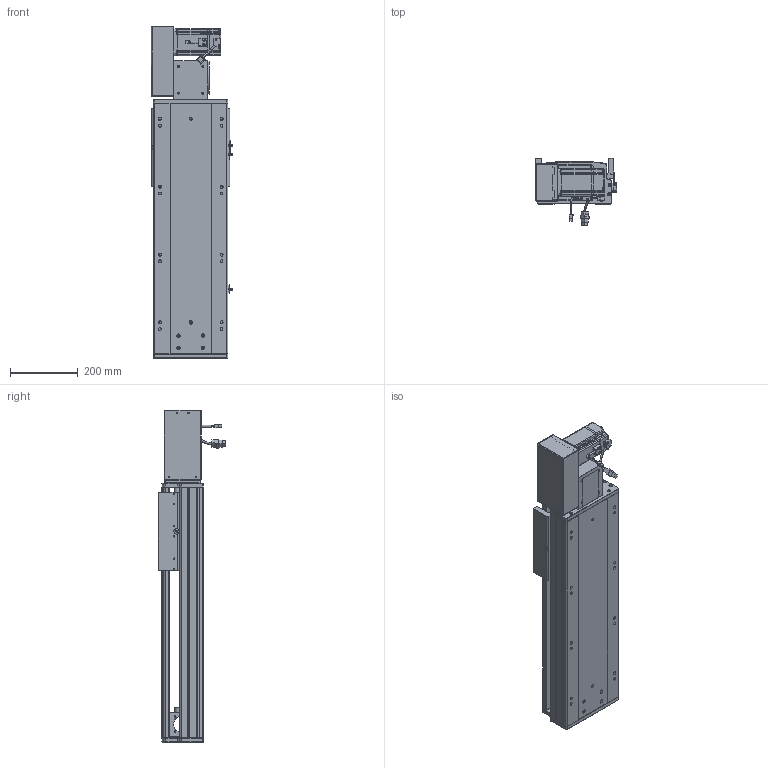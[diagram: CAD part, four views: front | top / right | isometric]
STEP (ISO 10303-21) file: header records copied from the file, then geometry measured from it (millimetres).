
FILE_DESCRIPTION (( 'STEP AP203' ), '1' );
FILE_NAME ('RY220-T-300-LK.SLDASM_400.step', '2022-07-25T08:13:07', ( '' ), ( '' ), 'SwSTEP 2.0', 'SolidWorks 2016', '' );
FILE_SCHEMA (( 'CONFIG_CONTROL_DESIGN' ));
Length unit declared in the file: millimetre
Products named in the file (14): 覜茼ん672; 滅袉蝶18-15; RY220翋肮祭謫釱; RY220翋肮祭謫裔啣; 110A-T-肮祭謫釱傷裔; RY220-T-300-奻裔啣_400; RY220-T-蛌殏萇儂假蚾啣(750W); RY220-T-300-LK.SLDASM_400; 怢湛750W_ECMA-CX0807ES; RY220-T菁釱-300_400; RY220-T-湍謫欶(鍼踢); RY220-俋离672覜茼んえ; RY220圉猾敕々湍臏賑輸; RY220-同步轮副支撑座6304×2
Assembly tree (18 placements, depth 2):
  RY220-T-300-LK.SLDASM_400
    RY220-T菁釱-300_400
    RY220翋肮祭謫釱
    覜茼ん672  x3
    RY220圉猾敕々湍臏賑輸
    RY220-T-300-奻裔啣_400
    RY220-俋离672覜茼んえ
    滅袉蝶18-15  x3
    RY220翋肮祭謫裔啣  x2
    110A-T-肮祭謫釱傷裔
    怢湛750W_ECMA-CX0807ES
    RY220-T-湍謫欶(鍼踢)
    RY220-T-蛌殏萇儂假蚾啣(750W)
    RY220-同步轮副支撑座6304×2
Bounding box: 239.7 x 198.77 x 979 mm (x, y, z)
Volume: 8379198.5 mm3; surface area: 2314365.3 mm2
Topology: 19 solids, 19 shells, 2502 faces, 6891 edges, 4394 vertices
Faces by surface type: cylinder 1142, plane 1069, cone 209, bspline 56, sphere 16, torus 10
Entity records: 83043 total; most frequent: CARTESIAN_POINT 23775, ORIENTED_EDGE 12346, DIRECTION 11560, EDGE_CURVE 6173, AXIS2_PLACEMENT_3D 4048, VERTEX_POINT 4018, VECTOR 3464, LINE 3464
